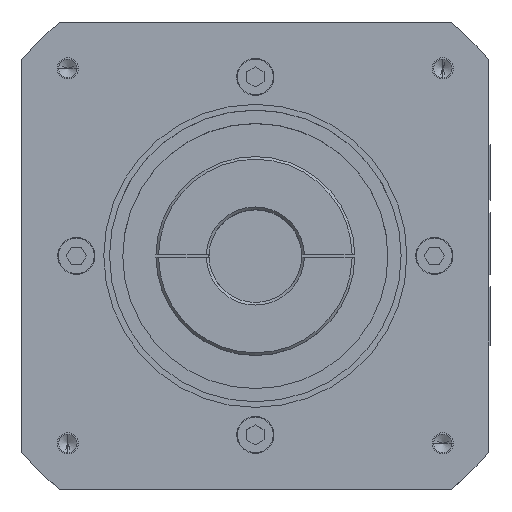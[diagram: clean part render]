
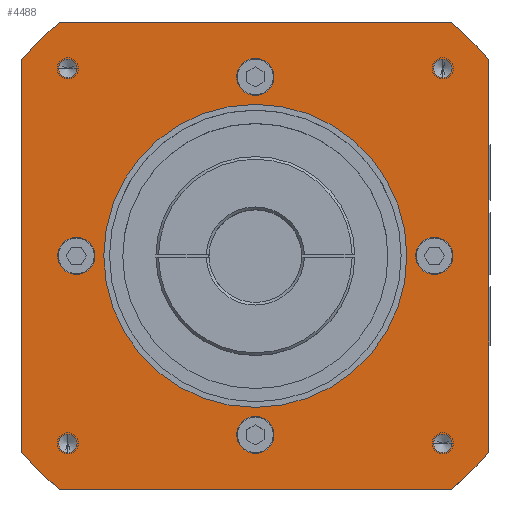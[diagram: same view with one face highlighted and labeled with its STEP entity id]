
A CAD part, top view. The second image highlights one B-rep face of the part: STEP entity #4488.
In plain terms, the highlighted planar face has unit normal (0, 0, 1).
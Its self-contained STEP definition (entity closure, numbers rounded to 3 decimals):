
#736=CARTESIAN_POINT('',(0.,0.,205.));
#737=DIRECTION('',(0.,0.,-1.));
#738=DIRECTION('',(0.644,0.765,0.));
#739=AXIS2_PLACEMENT_3D('',#736,#737,#738);
#741=DIRECTION('',(0.,1.,0.));
#742=VECTOR('',#741,148.068);
#743=CARTESIAN_POINT('',(88.,-74.034,205.));
#744=LINE('',#743,#742);
#745=CARTESIAN_POINT('',(0.,0.,205.));
#746=DIRECTION('',(0.,0.,1.));
#747=DIRECTION('',(0.644,-0.765,0.));
#748=AXIS2_PLACEMENT_3D('',#745,#746,#747);
#750=DIRECTION('',(1.,0.,0.));
#751=VECTOR('',#750,148.068);
#752=CARTESIAN_POINT('',(-74.034,-88.,205.));
#753=LINE('',#752,#751);
#754=CARTESIAN_POINT('',(0.,0.,205.));
#755=DIRECTION('',(0.,0.,-1.));
#756=DIRECTION('',(-0.644,-0.765,0.));
#757=AXIS2_PLACEMENT_3D('',#754,#755,#756);
#759=DIRECTION('',(0.,-1.,0.));
#760=VECTOR('',#759,148.068);
#761=CARTESIAN_POINT('',(-88.,74.034,205.));
#762=LINE('',#761,#760);
#763=CARTESIAN_POINT('',(0.,0.,205.));
#764=DIRECTION('',(0.,0.,1.));
#765=DIRECTION('',(-0.644,0.765,0.));
#766=AXIS2_PLACEMENT_3D('',#763,#764,#765);
#768=DIRECTION('',(-1.,0.,0.));
#769=VECTOR('',#768,148.068);
#770=CARTESIAN_POINT('',(74.034,88.,205.));
#771=LINE('',#770,#769);
#772=CARTESIAN_POINT('',(-70.711,70.711,205.));
#773=DIRECTION('',(0.,0.,1.));
#774=DIRECTION('',(-1.,0.,0.));
#775=AXIS2_PLACEMENT_3D('',#772,#773,#774);
#777=CARTESIAN_POINT('',(-70.711,70.711,205.));
#778=DIRECTION('',(0.,0.,1.));
#779=DIRECTION('',(1.,0.,0.));
#780=AXIS2_PLACEMENT_3D('',#777,#778,#779);
#782=CARTESIAN_POINT('',(-70.711,-70.711,205.));
#783=DIRECTION('',(0.,0.,1.));
#784=DIRECTION('',(0.,-1.,0.));
#785=AXIS2_PLACEMENT_3D('',#782,#783,#784);
#787=CARTESIAN_POINT('',(-70.711,-70.711,205.));
#788=DIRECTION('',(0.,0.,1.));
#789=DIRECTION('',(0.,1.,0.));
#790=AXIS2_PLACEMENT_3D('',#787,#788,#789);
#792=CARTESIAN_POINT('',(70.711,-70.711,205.));
#793=DIRECTION('',(0.,0.,1.));
#794=DIRECTION('',(1.,0.,0.));
#795=AXIS2_PLACEMENT_3D('',#792,#793,#794);
#797=CARTESIAN_POINT('',(70.711,-70.711,205.));
#798=DIRECTION('',(0.,0.,1.));
#799=DIRECTION('',(-1.,0.,0.));
#800=AXIS2_PLACEMENT_3D('',#797,#798,#799);
#802=CARTESIAN_POINT('',(70.711,70.711,205.));
#803=DIRECTION('',(0.,0.,1.));
#804=DIRECTION('',(0.,1.,0.));
#805=AXIS2_PLACEMENT_3D('',#802,#803,#804);
#807=CARTESIAN_POINT('',(70.711,70.711,205.));
#808=DIRECTION('',(0.,0.,1.));
#809=DIRECTION('',(0.,-1.,0.));
#810=AXIS2_PLACEMENT_3D('',#807,#808,#809);
#812=CARTESIAN_POINT('',(0.,-67.5,205.));
#813=DIRECTION('',(0.,0.,1.));
#814=DIRECTION('',(0.,1.,0.));
#815=AXIS2_PLACEMENT_3D('',#812,#813,#814);
#817=CARTESIAN_POINT('',(0.,-67.5,205.));
#818=DIRECTION('',(0.,0.,1.));
#819=DIRECTION('',(0.,-1.,0.));
#820=AXIS2_PLACEMENT_3D('',#817,#818,#819);
#822=CARTESIAN_POINT('',(67.5,0.,205.));
#823=DIRECTION('',(0.,0.,1.));
#824=DIRECTION('',(-1.,0.,0.));
#825=AXIS2_PLACEMENT_3D('',#822,#823,#824);
#827=CARTESIAN_POINT('',(67.5,0.,205.));
#828=DIRECTION('',(0.,0.,1.));
#829=DIRECTION('',(1.,0.,0.));
#830=AXIS2_PLACEMENT_3D('',#827,#828,#829);
#832=CARTESIAN_POINT('',(0.,67.5,205.));
#833=DIRECTION('',(0.,0.,1.));
#834=DIRECTION('',(0.,-1.,0.));
#835=AXIS2_PLACEMENT_3D('',#832,#833,#834);
#837=CARTESIAN_POINT('',(0.,67.5,205.));
#838=DIRECTION('',(0.,0.,1.));
#839=DIRECTION('',(0.,1.,0.));
#840=AXIS2_PLACEMENT_3D('',#837,#838,#839);
#842=CARTESIAN_POINT('',(-67.5,0.,205.));
#843=DIRECTION('',(0.,0.,1.));
#844=DIRECTION('',(1.,0.,0.));
#845=AXIS2_PLACEMENT_3D('',#842,#843,#844);
#847=CARTESIAN_POINT('',(-67.5,0.,205.));
#848=DIRECTION('',(0.,0.,1.));
#849=DIRECTION('',(-1.,0.,0.));
#850=AXIS2_PLACEMENT_3D('',#847,#848,#849);
#852=CARTESIAN_POINT('',(0.,0.,205.));
#853=DIRECTION('',(0.,0.,1.));
#854=DIRECTION('',(0.,1.,0.));
#855=AXIS2_PLACEMENT_3D('',#852,#853,#854);
#857=CARTESIAN_POINT('',(0.,0.,205.));
#858=DIRECTION('',(0.,0.,1.));
#859=DIRECTION('',(0.,-1.,0.));
#860=AXIS2_PLACEMENT_3D('',#857,#858,#859);
#2889=CARTESIAN_POINT('',(74.034,88.,205.));
#2890=CARTESIAN_POINT('',(88.,74.034,205.));
#2891=VERTEX_POINT('',#2889);
#2892=VERTEX_POINT('',#2890);
#2893=CARTESIAN_POINT('',(-74.034,-88.,205.));
#2894=CARTESIAN_POINT('',(-88.,-74.034,205.));
#2895=VERTEX_POINT('',#2893);
#2896=VERTEX_POINT('',#2894);
#2913=CARTESIAN_POINT('',(-74.034,88.,205.));
#2914=CARTESIAN_POINT('',(-88.,74.034,205.));
#2915=VERTEX_POINT('',#2913);
#2916=VERTEX_POINT('',#2914);
#2917=CARTESIAN_POINT('',(74.034,-88.,205.));
#2918=CARTESIAN_POINT('',(88.,-74.034,205.));
#2919=VERTEX_POINT('',#2917);
#2920=VERTEX_POINT('',#2918);
#3167=CARTESIAN_POINT('',(-74.211,70.711,205.));
#3168=CARTESIAN_POINT('',(-67.211,70.711,205.));
#3169=VERTEX_POINT('',#3167);
#3170=VERTEX_POINT('',#3168);
#3177=CARTESIAN_POINT('',(-70.711,-74.211,205.));
#3178=CARTESIAN_POINT('',(-70.711,-67.211,205.));
#3179=VERTEX_POINT('',#3177);
#3180=VERTEX_POINT('',#3178);
#3187=CARTESIAN_POINT('',(74.211,-70.711,205.));
#3188=CARTESIAN_POINT('',(67.211,-70.711,205.));
#3189=VERTEX_POINT('',#3187);
#3190=VERTEX_POINT('',#3188);
#3197=CARTESIAN_POINT('',(70.711,74.211,205.));
#3198=CARTESIAN_POINT('',(70.711,67.211,205.));
#3199=VERTEX_POINT('',#3197);
#3200=VERTEX_POINT('',#3198);
#3205=CARTESIAN_POINT('',(0.,-60.5,205.));
#3206=CARTESIAN_POINT('',(0.,-74.5,205.));
#3207=VERTEX_POINT('',#3205);
#3208=VERTEX_POINT('',#3206);
#3213=CARTESIAN_POINT('',(60.5,0.,205.));
#3214=CARTESIAN_POINT('',(74.5,0.,205.));
#3215=VERTEX_POINT('',#3213);
#3216=VERTEX_POINT('',#3214);
#3221=CARTESIAN_POINT('',(0.,60.5,205.));
#3222=CARTESIAN_POINT('',(0.,74.5,205.));
#3223=VERTEX_POINT('',#3221);
#3224=VERTEX_POINT('',#3222);
#3229=CARTESIAN_POINT('',(-60.5,0.,205.));
#3230=CARTESIAN_POINT('',(-74.5,0.,205.));
#3231=VERTEX_POINT('',#3229);
#3232=VERTEX_POINT('',#3230);
#3365=CARTESIAN_POINT('',(0.,57.15,205.));
#3366=CARTESIAN_POINT('',(0.,-57.15,205.));
#3367=VERTEX_POINT('',#3365);
#3368=VERTEX_POINT('',#3366);
#4414=CARTESIAN_POINT('',(0.,0.,205.));
#4415=DIRECTION('',(0.,0.,1.));
#4416=DIRECTION('',(1.,0.,0.));
#4417=AXIS2_PLACEMENT_3D('',#4414,#4415,#4416);
#4418=PLANE('',#4417);
#4419=ORIENTED_EDGE('',*,*,#4381,.T.);
#4421=ORIENTED_EDGE('',*,*,#4420,.F.);
#4423=ORIENTED_EDGE('',*,*,#4422,.F.);
#4425=ORIENTED_EDGE('',*,*,#4424,.F.);
#4427=ORIENTED_EDGE('',*,*,#4426,.T.);
#4429=ORIENTED_EDGE('',*,*,#4428,.F.);
#4430=ORIENTED_EDGE('',*,*,#4394,.F.);
#4431=ORIENTED_EDGE('',*,*,#4407,.F.);
#4432=EDGE_LOOP('',(#4419,#4421,#4423,#4425,#4427,#4429,#4430,#4431));
#4433=FACE_OUTER_BOUND('',#4432,.F.);
#4435=ORIENTED_EDGE('',*,*,#4434,.T.);
#4437=ORIENTED_EDGE('',*,*,#4436,.T.);
#4438=EDGE_LOOP('',(#4435,#4437));
#4439=FACE_BOUND('',#4438,.F.);
#4441=ORIENTED_EDGE('',*,*,#4440,.T.);
#4443=ORIENTED_EDGE('',*,*,#4442,.T.);
#4444=EDGE_LOOP('',(#4441,#4443));
#4445=FACE_BOUND('',#4444,.F.);
#4447=ORIENTED_EDGE('',*,*,#4446,.T.);
#4449=ORIENTED_EDGE('',*,*,#4448,.T.);
#4450=EDGE_LOOP('',(#4447,#4449));
#4451=FACE_BOUND('',#4450,.F.);
#4453=ORIENTED_EDGE('',*,*,#4452,.T.);
#4455=ORIENTED_EDGE('',*,*,#4454,.T.);
#4456=EDGE_LOOP('',(#4453,#4455));
#4457=FACE_BOUND('',#4456,.F.);
#4459=ORIENTED_EDGE('',*,*,#4458,.T.);
#4461=ORIENTED_EDGE('',*,*,#4460,.T.);
#4462=EDGE_LOOP('',(#4459,#4461));
#4463=FACE_BOUND('',#4462,.F.);
#4465=ORIENTED_EDGE('',*,*,#4464,.T.);
#4467=ORIENTED_EDGE('',*,*,#4466,.T.);
#4468=EDGE_LOOP('',(#4465,#4467));
#4469=FACE_BOUND('',#4468,.F.);
#4471=ORIENTED_EDGE('',*,*,#4470,.T.);
#4473=ORIENTED_EDGE('',*,*,#4472,.T.);
#4474=EDGE_LOOP('',(#4471,#4473));
#4475=FACE_BOUND('',#4474,.F.);
#4477=ORIENTED_EDGE('',*,*,#4476,.T.);
#4479=ORIENTED_EDGE('',*,*,#4478,.T.);
#4480=EDGE_LOOP('',(#4477,#4479));
#4481=FACE_BOUND('',#4480,.F.);
#4483=ORIENTED_EDGE('',*,*,#4482,.T.);
#4485=ORIENTED_EDGE('',*,*,#4484,.T.);
#4486=EDGE_LOOP('',(#4483,#4485));
#4487=FACE_BOUND('',#4486,.F.);
#4488=ADVANCED_FACE('',(#4433,#4439,#4445,#4451,#4457,#4463,#4469,#4475,#4481,
#4487),#4418,.T.);
#740=CIRCLE('',#739,115.);
#749=CIRCLE('',#748,115.);
#758=CIRCLE('',#757,115.);
#767=CIRCLE('',#766,115.);
#776=CIRCLE('',#775,3.5);
#781=CIRCLE('',#780,3.5);
#786=CIRCLE('',#785,3.5);
#791=CIRCLE('',#790,3.5);
#796=CIRCLE('',#795,3.5);
#801=CIRCLE('',#800,3.5);
#806=CIRCLE('',#805,3.5);
#811=CIRCLE('',#810,3.5);
#816=CIRCLE('',#815,7.);
#821=CIRCLE('',#820,7.);
#826=CIRCLE('',#825,7.);
#831=CIRCLE('',#830,7.);
#836=CIRCLE('',#835,7.);
#841=CIRCLE('',#840,7.);
#846=CIRCLE('',#845,7.);
#851=CIRCLE('',#850,7.);
#856=CIRCLE('',#855,57.15);
#861=CIRCLE('',#860,57.15);
#4381=EDGE_CURVE('',#2891,#2892,#740,.T.);
#4394=EDGE_CURVE('',#2915,#2916,#767,.T.);
#4407=EDGE_CURVE('',#2891,#2915,#771,.T.);
#4420=EDGE_CURVE('',#2920,#2892,#744,.T.);
#4422=EDGE_CURVE('',#2919,#2920,#749,.T.);
#4424=EDGE_CURVE('',#2895,#2919,#753,.T.);
#4426=EDGE_CURVE('',#2895,#2896,#758,.T.);
#4428=EDGE_CURVE('',#2916,#2896,#762,.T.);
#4434=EDGE_CURVE('',#3169,#3170,#776,.T.);
#4436=EDGE_CURVE('',#3170,#3169,#781,.T.);
#4440=EDGE_CURVE('',#3179,#3180,#786,.T.);
#4442=EDGE_CURVE('',#3180,#3179,#791,.T.);
#4446=EDGE_CURVE('',#3189,#3190,#796,.T.);
#4448=EDGE_CURVE('',#3190,#3189,#801,.T.);
#4452=EDGE_CURVE('',#3199,#3200,#806,.T.);
#4454=EDGE_CURVE('',#3200,#3199,#811,.T.);
#4458=EDGE_CURVE('',#3207,#3208,#816,.T.);
#4460=EDGE_CURVE('',#3208,#3207,#821,.T.);
#4464=EDGE_CURVE('',#3215,#3216,#826,.T.);
#4466=EDGE_CURVE('',#3216,#3215,#831,.T.);
#4470=EDGE_CURVE('',#3223,#3224,#836,.T.);
#4472=EDGE_CURVE('',#3224,#3223,#841,.T.);
#4476=EDGE_CURVE('',#3231,#3232,#846,.T.);
#4478=EDGE_CURVE('',#3232,#3231,#851,.T.);
#4482=EDGE_CURVE('',#3367,#3368,#856,.T.);
#4484=EDGE_CURVE('',#3368,#3367,#861,.T.);
